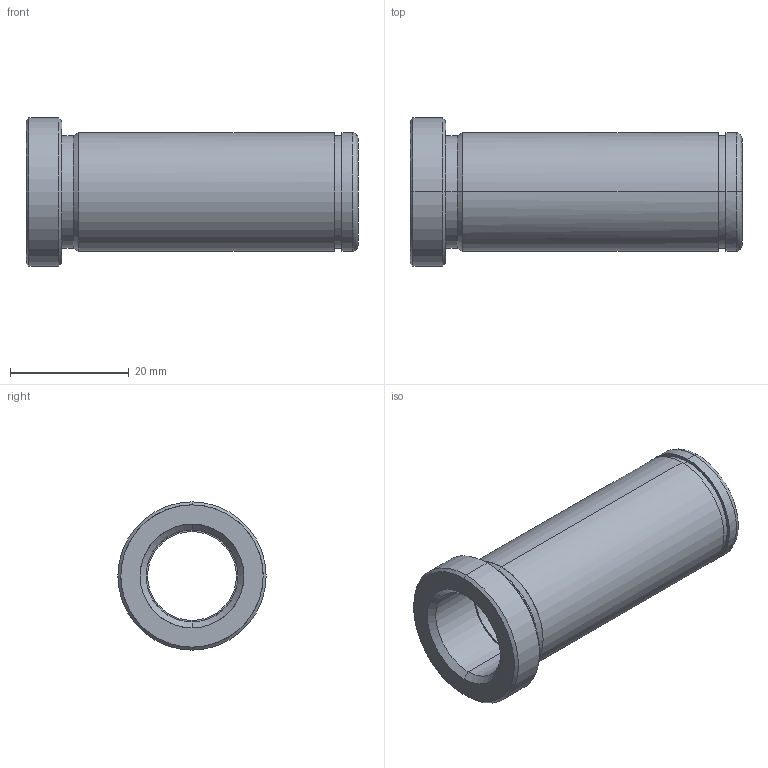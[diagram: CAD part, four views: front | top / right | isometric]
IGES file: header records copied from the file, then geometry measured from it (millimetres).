
Start section: START RECORD GO HERE.
Global section: file name: 553-15X56.igs; native system: DASSAULT SYSTEMES CATIA V5 R20 - www.3ds.com; preprocessor: CATIA Version 5 Release 20 ; author: Utente; organization: NB04-ASUS; date: 20210521.203630; units: millimetre
Bounding box: 56 x 25 x 25 mm (x, y, z)
Surface area: 6853.5 mm2 (no closed solid volume)
Topology: 0 solids, 0 shells, 31 faces, 196 edges, 196 vertices
Faces by surface type: revolution 26, plane 5
